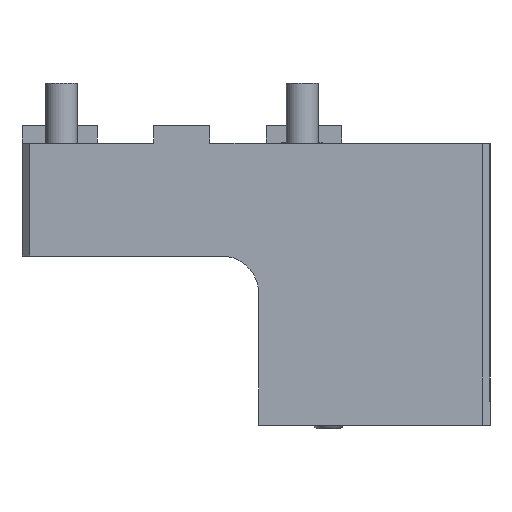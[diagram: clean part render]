
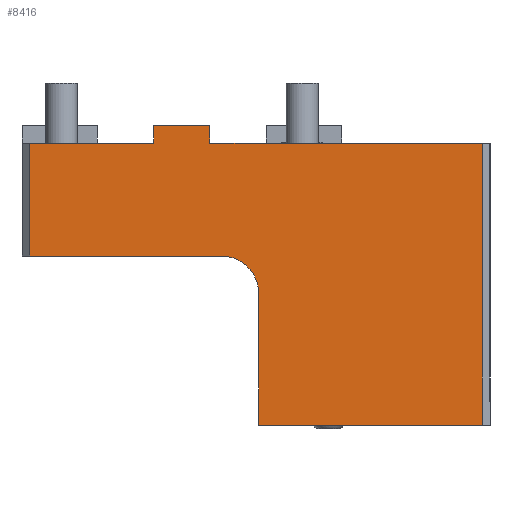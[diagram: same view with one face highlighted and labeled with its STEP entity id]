
A CAD part, front view. The second image highlights one B-rep face of the part: STEP entity #8416.
In plain terms, the highlighted planar face has unit normal (0, -1, 0).
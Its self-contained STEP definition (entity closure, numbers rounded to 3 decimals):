
#3829=CIRCLE('',#8024,10.);
#4165=ORIENTED_EDGE('',*,*,#5596,.T.);
#4166=ORIENTED_EDGE('',*,*,#5597,.F.);
#4167=ORIENTED_EDGE('',*,*,#5598,.F.);
#4168=ORIENTED_EDGE('',*,*,#5569,.T.);
#4169=ORIENTED_EDGE('',*,*,#5599,.F.);
#4170=ORIENTED_EDGE('',*,*,#5591,.F.);
#4171=ORIENTED_EDGE('',*,*,#5600,.T.);
#4172=ORIENTED_EDGE('',*,*,#5601,.F.);
#4173=ORIENTED_EDGE('',*,*,#5471,.T.);
#4174=ORIENTED_EDGE('',*,*,#5482,.T.);
#4175=ORIENTED_EDGE('',*,*,#5489,.T.);
#4668=VECTOR('',#6369,1.);
#4675=VECTOR('',#6386,1.);
#4681=VECTOR('',#6396,1.);
#4743=VECTOR('',#6532,1.);
#4764=VECTOR('',#6575,1.);
#4767=VECTOR('',#6584,1.);
#4768=VECTOR('',#6585,1.);
#4769=VECTOR('',#6586,1.);
#4770=VECTOR('',#6587,1.);
#4771=VECTOR('',#6590,1.);
#4935=LINE('',#7219,#4668);
#4942=LINE('',#7240,#4675);
#4948=LINE('',#7255,#4681);
#5010=LINE('',#7412,#4743);
#5031=LINE('',#7456,#4764);
#5034=LINE('',#7465,#4767);
#5035=LINE('',#7467,#4768);
#5036=LINE('',#7468,#4769);
#5037=LINE('',#7469,#4770);
#5038=LINE('',#7472,#4771);
#5202=VERTEX_POINT('',#7216);
#5203=VERTEX_POINT('',#7218);
#5212=VERTEX_POINT('',#7238);
#5219=VERTEX_POINT('',#7253);
#5276=VERTEX_POINT('',#7409);
#5277=VERTEX_POINT('',#7411);
#5288=VERTEX_POINT('',#7454);
#5289=VERTEX_POINT('',#7455);
#5292=VERTEX_POINT('',#7464);
#5293=VERTEX_POINT('',#7466);
#5294=VERTEX_POINT('',#7470);
#5471=EDGE_CURVE('',#5203,#5202,#4935,.T.);
#5482=EDGE_CURVE('',#5202,#5212,#4942,.T.);
#5489=EDGE_CURVE('',#5212,#5219,#4948,.T.);
#5569=EDGE_CURVE('',#5277,#5276,#5010,.T.);
#5591=EDGE_CURVE('',#5288,#5289,#5031,.T.);
#5596=EDGE_CURVE('',#5219,#5292,#5034,.T.);
#5597=EDGE_CURVE('',#5293,#5292,#5035,.T.);
#5598=EDGE_CURVE('',#5277,#5293,#5036,.T.);
#5599=EDGE_CURVE('',#5289,#5276,#5037,.T.);
#5600=EDGE_CURVE('',#5288,#5294,#3829,.T.);
#5601=EDGE_CURVE('',#5203,#5294,#5038,.T.);
#5865=EDGE_LOOP('',(#4165,#4166,#4167,#4168,#4169,#4170,#4171,#4172,#4173,
#4174,#4175));
#6106=FACE_BOUND('',#5865,.T.);
#6369=DIRECTION('',(59.5,0.,0.));
#6386=DIRECTION('',(0.,0.,75.));
#6396=DIRECTION('',(-72.5,0.,0.));
#6532=DIRECTION('',(-33.,0.,0.));
#6575=DIRECTION('',(-51.,0.,0.));
#6582=DIRECTION('',(0.,-1.,0.));
#6583=DIRECTION('',(-1.,0.,0.));
#6584=DIRECTION('',(0.,0.,4.75));
#6585=DIRECTION('',(15.,0.,0.));
#6586=DIRECTION('',(0.,0.,4.75));
#6587=DIRECTION('',(0.,0.,30.));
#6588=DIRECTION('',(0.,1.,0.));
#6589=DIRECTION('',(0.,0.,-10.));
#6590=DIRECTION('',(0.,0.,35.));
#7216=CARTESIAN_POINT('',(80.,-42.5,-64.));
#7218=CARTESIAN_POINT('',(20.5,-42.5,-64.));
#7219=CARTESIAN_POINT('',(20.5,-42.5,-64.));
#7238=CARTESIAN_POINT('',(80.,-42.5,11.));
#7240=CARTESIAN_POINT('',(80.,-42.5,-64.));
#7253=CARTESIAN_POINT('',(7.5,-42.5,11.));
#7255=CARTESIAN_POINT('',(80.,-42.5,11.));
#7409=CARTESIAN_POINT('',(-40.5,-42.5,11.));
#7411=CARTESIAN_POINT('',(-7.5,-42.5,11.));
#7412=CARTESIAN_POINT('',(-7.5,-42.5,11.));
#7454=CARTESIAN_POINT('',(10.5,-42.5,-19.));
#7455=CARTESIAN_POINT('',(-40.5,-42.5,-19.));
#7456=CARTESIAN_POINT('',(10.5,-42.5,-19.));
#7463=CARTESIAN_POINT('',(7.5,-42.5,6.));
#7464=CARTESIAN_POINT('',(7.5,-42.5,15.75));
#7465=CARTESIAN_POINT('',(7.5,-42.5,11.));
#7466=CARTESIAN_POINT('',(-7.5,-42.5,15.75));
#7467=CARTESIAN_POINT('',(-7.5,-42.5,15.75));
#7468=CARTESIAN_POINT('',(-7.5,-42.5,11.));
#7469=CARTESIAN_POINT('',(-40.5,-42.5,-19.));
#7470=CARTESIAN_POINT('',(20.5,-42.5,-29.));
#7471=CARTESIAN_POINT('',(10.5,-42.5,-29.));
#7472=CARTESIAN_POINT('',(20.5,-42.5,-64.));
#8023=AXIS2_PLACEMENT_3D('',#7463,#6582,#6583);
#8024=AXIS2_PLACEMENT_3D('',#7471,#6588,#6589);
#8270=PLANE('',#8023);
#8416=ADVANCED_FACE('',(#6106),#8270,.T.);
